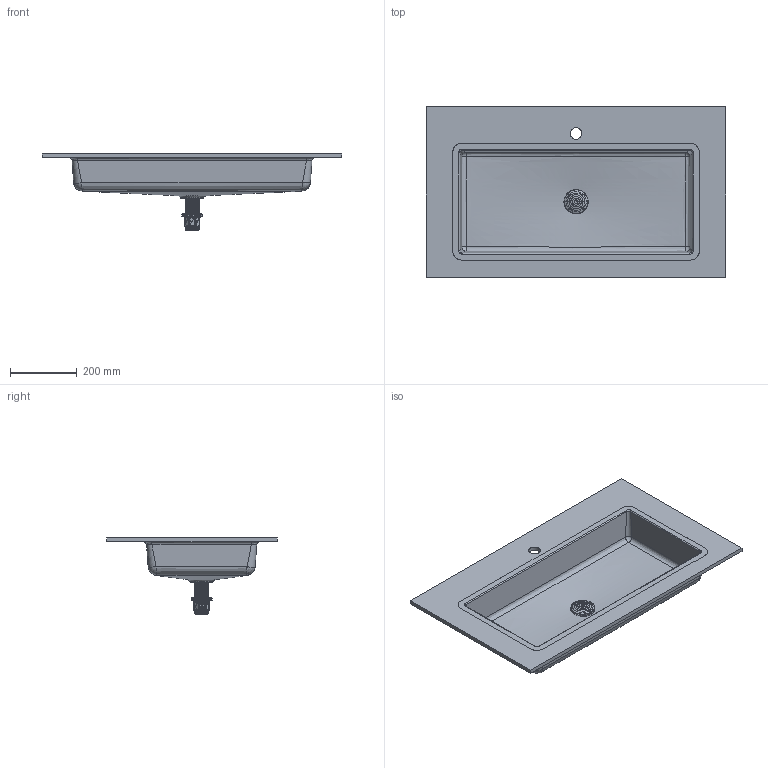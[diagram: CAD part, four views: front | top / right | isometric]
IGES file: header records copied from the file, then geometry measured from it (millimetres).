
Start section: Data from Parasolid IGES Translator 19.0.9, Copyright(c) 2006 Siemens PL M Software. All Rights Reserved.
Global section: file name: noorth-top-H 1,2 D 51,3 W 90_6526.igs; native system: By Siemens PLM Incorporated; preprocessor: XPlus GENERIC/IGES 19.0.9; author: Noname; organization: Noname; date: 20200603.084818; units: metre
Bounding box: 900 x 512 x 230.13 mm (x, y, z)
Volume: 7619162.4 mm3; surface area: 1409098.9 mm2
Topology: 2 solids, 2 shells, 11700 faces, 35048 edges, 34967 vertices
Faces by surface type: extrusion 11618, bspline 48, plane 25, cylinder 6, cone 3
Full cylindrical faces by diameter (mm): 34.9 x1, 45 x1
